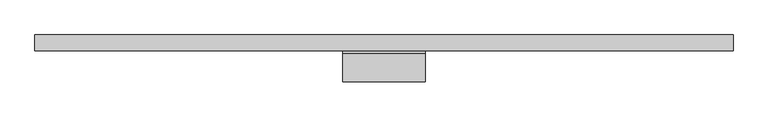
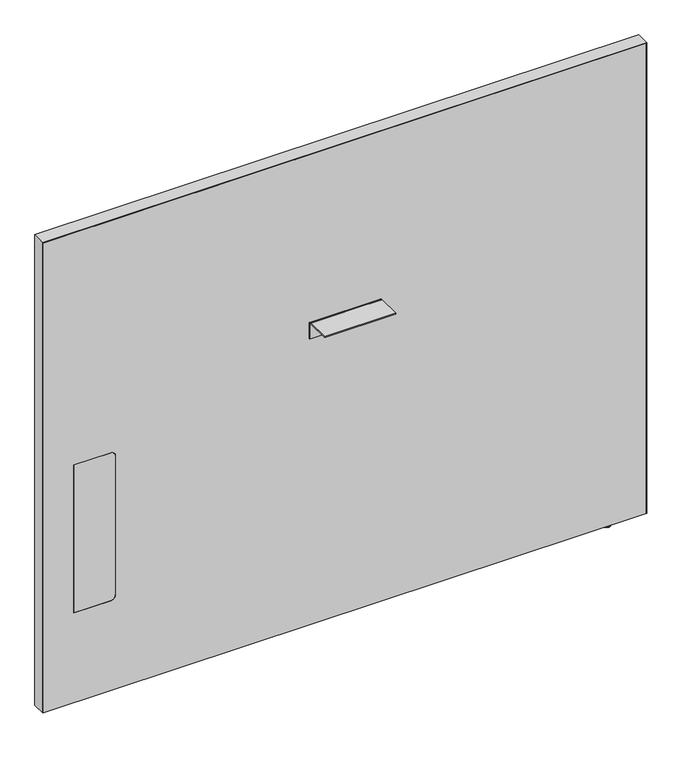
"""IFC4 building model written with IfcOpenShell, lengths in millimetres: furniture geometry, Steelcase - Answer Solution - Boundary Screen - Straight - Single Sided : 42H x 51W."""

from ifc_helpers import new_model, si_unit, point, frame, frame_2d, origin, place, context, project, spatial, polyline, circle_curve, ellipse_curve, trimmed, segment, composite_curve, outline, extrude, source, transform, mapped, element, save
from ifc_brep_helpers import plane_surface, cylinder_surface, revolved_surface, advanced_brep


def furniture_d0f10aa8(model_context):
    return source(origin(), model_context, "Body", "SolidModel", [
        extrude(outline(composite_curve([segment(polyline([(-86.8398151, 696.4680019), (-86.8398151, 698.5), (-34.9450855, 698.5)]), True, "CONTINUOUS"), segment(trimmed(circle_curve(frame_2d((-34.9450855, 693.2447477)), 5.2552523), [point((-34.9450855, 698.5))], [point((-29.6898332, 693.2447477))], False, "CARTESIAN"), True, "CONTINUOUS"), segment(polyline([(-29.6898332, 693.2447477), (-29.6898332, 660.4), (-31.7218162, 660.4), (-31.7218162, 693.0058743)]), True, "CONTINUOUS"), segment(trimmed(circle_curve(frame_2d((-35.1839438, 693.0058743)), 3.4621276), [point((-31.7218162, 693.0058743))], [point((-35.1839438, 696.4680019))], True, "CARTESIAN"), True, "CONTINUOUS"), segment(polyline([(-35.1839438, 696.4680019), (-86.8398151, 696.4680019)]), True, "CONTINUOUS")], self_intersect=False)), frame((-74.9808593, 0.0, 0.0), z_axis=(1.0, 0.0, 0.0), x_axis=(0.0, 1.0, 0.0)), (0.0, 0.0, 1.0), 152.4000969),
        advanced_brep(
        [(571.7286488, -23.7588726, 9.9059849), (571.7286488, -5.9309607, 9.9059849), (571.7286488, -14.8449166, 9.9059849), (571.7286488, -23.7588726, 2.9673238), (571.7286488, -5.9309607, 2.9673238), (571.7286488, -22.7915354, 2.9673238), (571.7286488, -6.8982978, 2.9673238), (571.7286488, -22.7915354, 1.6569081), (571.7286488, -6.8982978, 1.6569081), (571.7286488, -21.1346274, 0.0), (571.7286488, -8.5552059, 0.0), (571.7286488, -14.8449166, 0.0)],
        [
            (0, 1, circle_curve(frame((571.7286488, -14.8449166, 9.9059849), z_axis=(0.0, 0.0, 1.0), x_axis=(0.0, 1.0, 0.0)), 8.913956)),
            (1, 2),
            (2, 0),
            (1, 0, circle_curve(frame((571.7286488, -14.8449166, 9.9059849), z_axis=(0.0, 0.0, 1.0), x_axis=(0.0, 1.0, 0.0)), 8.913956)),
            (3, 4, circle_curve(frame((571.7286488, -14.8449166, 2.9673238), z_axis=(0.0, 0.0, 1.0), x_axis=(0.0, 1.0, 0.0)), 8.913956)),
            (4, 1),
            (0, 3),
            (4, 3, circle_curve(frame((571.7286488, -14.8449166, 2.9673238), z_axis=(0.0, 0.0, 1.0), x_axis=(0.0, 1.0, 0.0)), 8.913956)),
            (5, 6, circle_curve(frame((571.7286488, -14.8449166, 2.9673238), z_axis=(0.0, 0.0, 1.0), x_axis=(0.0, 1.0, 0.0)), 7.9466188)),
            (6, 4),
            (3, 5),
            (6, 5, circle_curve(frame((571.7286488, -14.8449166, 2.9673238), z_axis=(0.0, 0.0, 1.0), x_axis=(0.0, 1.0, 0.0)), 7.9466188)),
            (7, 8, circle_curve(frame((571.7286488, -14.8449166, 1.6569081), z_axis=(0.0, 0.0, 1.0), x_axis=(0.0, 1.0, 0.0)), 7.9466188)),
            (8, 6),
            (5, 7),
            (8, 7, circle_curve(frame((571.7286488, -14.8449166, 1.6569081), z_axis=(0.0, 0.0, 1.0), x_axis=(0.0, 1.0, 0.0)), 7.9466188)),
            (9, 10, circle_curve(frame((571.7286488, -14.8449166, 0.0), z_axis=(0.0, 0.0, 1.0), x_axis=(0.0, 1.0, 0.0)), 6.2897107)),
            (10, 8, circle_curve(frame((571.7286488, -8.5552059, 1.6569081), z_axis=(1.0, 0.0, 0.0), x_axis=(0.0, 1.0, 0.0)), 1.6569081)),
            (7, 9, circle_curve(frame((571.7286488, -21.1346274, 1.6569081), z_axis=(1.0, 0.0, 0.0), x_axis=(0.0, -1.0, 0.0)), 1.6569081)),
            (10, 9, circle_curve(frame((571.7286488, -14.8449166, 0.0), z_axis=(0.0, 0.0, 1.0), x_axis=(0.0, 1.0, 0.0)), 6.2897107)),
            (11, 10),
            (9, 11),
        ],
        [
            plane_surface(frame((571.7286488, -14.8449166, 9.9059849), z_axis=(0.0, 0.0, 1.0), x_axis=(0.0, 1.0, 0.0))),
            cylinder_surface(frame((571.7286488, -14.8449166, 9.9059849), z_axis=(0.0, 0.0, -1.0), x_axis=(0.0, 1.0, 0.0)), 8.913956),
            plane_surface(frame((571.7286488, -14.8449166, 2.9673238), z_axis=(0.0, 0.0, -1.0), x_axis=(0.0, 1.0, 0.0))),
            cylinder_surface(frame((571.7286488, -14.8449166, 9.9059849), z_axis=(0.0, 0.0, -1.0), x_axis=(0.0, 1.0, 0.0)), 7.9466188),
            revolved_surface(trimmed(ellipse_curve(frame((571.7286488, -8.5552059, 1.6569081), z_axis=(-1.0, 0.0, 0.0), x_axis=(0.0, 1.0, 0.0)), 1.6569081, 1.6569081), [point((571.7286488, -6.8982978, 1.6569081))], [point((571.7286488, -8.5552059, 0.0))], True, "CARTESIAN"), (571.7286488, -14.8449166, 9.9059849), (0.0, 0.0, -1.0)),
            plane_surface(frame((571.7286488, -14.8449166, 0.0), z_axis=(0.0, 0.0, -1.0), x_axis=(0.0, 1.0, 0.0))),
        ],
        [
            (0, [[1, 2, 3]]),
            (0, [[4, -3, -2]]),
            (1, [[5, 6, -1, 7]]),
            (1, [[8, -7, -4, -6]]),
            (2, [[9, 10, -5, 11]]),
            (2, [[12, -11, -8, -10]]),
            (3, [[13, 14, -9, 15]]),
            (3, [[16, -15, -12, -14]]),
            (4, [[17, 18, -13, 19]]),
            (4, [[20, -19, -16, -18]]),
            (5, [[21, -17, 22]]),
            (5, [[-22, -20, -21]]),
        ],
    ),
        advanced_brep(
        [(647.8780168, 0.0, 1076.742118), (647.8780168, 0.0, 9.9059849), (-645.4902221, 0.0, 9.9059849), (-645.4902221, 0.0, 1076.742118), (647.8780168, -29.6898332, 1076.742118), (-645.4902221, -29.6898332, 1076.742118), (-645.4902221, -29.6898332, 9.9059849), (647.8780168, -29.6898332, 9.9059849), (-501.1463873, -29.6898332, 549.6162029), (-490.9863873, -29.6898332, 539.4562029), (-490.9863873, -29.6898332, 223.9362137), (-501.1463873, -29.6898332, 213.7762137), (-580.800285, -29.6898332, 213.7762137), (-580.800285, -29.6898332, 549.6162029), (-580.800285, -29.0550397, 549.6162029), (-501.1463873, -29.0550397, 549.6162029), (-580.800285, -29.0550397, 213.7762137), (-501.1463873, -29.0550397, 213.7762137), (-490.9863873, -29.0550397, 223.9362137), (-490.9863873, -29.0550397, 539.4562029)],
        [
            (0, 1),
            (1, 2),
            (2, 3),
            (3, 0),
            (4, 5),
            (5, 6),
            (6, 7),
            (7, 4),
            (8, 9, circle_curve(frame((-501.1463873, -29.6898332, 539.4562029), z_axis=(0.0, 1.0, 0.0), x_axis=(0.0, 0.0, 1.0)), 10.16)),
            (9, 10),
            (10, 11, circle_curve(frame((-501.1463873, -29.6898332, 223.9362137), z_axis=(0.0, 1.0, 0.0), x_axis=(0.0, 0.0, 1.0)), 10.16)),
            (11, 12),
            (12, 13),
            (13, 8),
            (0, 4),
            (7, 1),
            (6, 2),
            (5, 3),
            (13, 14),
            (14, 15),
            (15, 8),
            (12, 16),
            (16, 14),
            (11, 17),
            (17, 16),
            (10, 18),
            (18, 17, circle_curve(frame((-501.1463873, -29.0550397, 223.9362137), z_axis=(0.0, 1.0, 0.0), x_axis=(0.0, 0.0, 1.0)), 10.16)),
            (9, 19),
            (19, 18),
            (15, 19, circle_curve(frame((-501.1463873, -29.0550397, 539.4562029), z_axis=(0.0, 1.0, 0.0), x_axis=(0.0, 0.0, 1.0)), 10.16)),
        ],
        [
            plane_surface(frame((647.8780168, 0.0, 1076.742118), z_axis=(0.0, 1.0, 0.0), x_axis=(0.0, 0.0, -1.0))),
            plane_surface(frame((647.8780168, -29.6898332, 1076.742118), z_axis=(0.0, -1.0, 0.0), x_axis=(0.0, 0.0, 1.0))),
            plane_surface(frame((647.8780168, 0.0, 1076.742118), z_axis=(1.0, 0.0, 0.0), x_axis=(0.0, -1.0, 0.0))),
            plane_surface(frame((647.8780168, 0.0, 9.9059849), z_axis=(0.0, 0.0, -1.0), x_axis=(0.0, -1.0, 0.0))),
            plane_surface(frame((-645.4902221, 0.0, 9.9059849), z_axis=(-1.0, 0.0, 0.0), x_axis=(0.0, -1.0, 0.0))),
            plane_surface(frame((-645.4902221, 0.0, 1076.742118), z_axis=(0.0, 0.0, 1.0), x_axis=(0.0, -1.0, 0.0))),
            plane_surface(frame((-501.1463873, 0.0, 549.6162029), z_axis=(0.0, 0.0, -1.0), x_axis=(0.0, -1.0, 0.0))),
            plane_surface(frame((-580.800285, 0.0, 549.6162029), z_axis=(1.0, 0.0, 0.0), x_axis=(0.0, -1.0, 0.0))),
            plane_surface(frame((-580.800285, 0.0, 213.7762137), z_axis=(0.0, 0.0, 1.0), x_axis=(0.0, -1.0, 0.0))),
            revolved_surface(polyline([(-501.1463873, -29.6898332, 234.0962137), (-501.1463873, -29.0550397, 234.0962137)]), (-501.1463873, -29.6898332, 223.9362137), (0.0, -1.0, 0.0)),
            plane_surface(frame((-490.9863873, 0.0, 223.9362137), z_axis=(-1.0, 0.0, 0.0), x_axis=(0.0, -1.0, 0.0))),
            revolved_surface(polyline([(-501.1463873, -29.6898332, 549.6162029), (-501.1463873, -29.0550397, 549.6162029)]), (-501.1463873, -29.6898332, 539.4562029), (0.0, -1.0, 0.0)),
            plane_surface(frame((-490.9863873, -29.0550397, 629.172953), z_axis=(0.0, -1.0, 0.0), x_axis=(0.0, 0.0, 1.0))),
        ],
        [
            (0, [[1, 2, 3, 4]]),
            (1, [[5, 6, 7, 8], [9, 10, 11, 12, 13, 14]]),
            (2, [[-1, 15, -8, 16]]),
            (3, [[-2, -16, -7, 17]]),
            (4, [[-3, -17, -6, 18]]),
            (5, [[-4, -18, -5, -15]]),
            (6, [[-14, 19, 20, 21]]),
            (7, [[-13, 22, 23, -19]]),
            (8, [[-12, 24, 25, -22]]),
            (9, [[-11, 26, 27, -24]]),
            (10, [[-10, 28, 29, -26]]),
            (11, [[-9, -21, 30, -28]]),
            (12, [[-20, -23, -25, -27, -29, -30]]),
        ],
    ),
        extrude(outline(composite_curve([segment(polyline([(549.6162029, -501.1463873), (549.6162029, -580.800285), (213.7762137, -580.800285), (213.7762137, -501.1463873)]), True, "CONTINUOUS"), segment(trimmed(circle_curve(frame_2d((223.9362137, -501.1463873)), 10.16), [point((213.7762137, -501.1463873))], [point((223.9362137, -490.9863873))], False, "CARTESIAN"), True, "CONTINUOUS"), segment(polyline([(223.9362137, -490.9863873), (539.4562029, -490.9863873)]), True, "CONTINUOUS"), segment(trimmed(circle_curve(frame_2d((539.4562029, -501.1463873)), 10.16), [point((539.4562029, -490.9863873))], [point((549.6162029, -501.1463873))], False, "CARTESIAN"), True, "CONTINUOUS")], self_intersect=False)), frame((0.0, -29.6898332, 0.0), z_axis=(0.0, 1.0, 0.0), x_axis=(0.0, 0.0, 1.0)), (0.0, 0.0, 1.0), 0.6347935),
        extrude(outline(polyline([(1077.722, 648.9191891), (1077.722, -646.4808109), (9.9059849, -646.4808109), (9.9059849, -645.4902221), (1076.742118, -645.4902221), (1076.742118, 647.8780168), (9.9059849, 647.8780168), (9.9059849, 648.9191891), (1077.722, 648.9191891)])), frame((0.0, -29.6898332, 0.0), z_axis=(0.0, 1.0, 0.0), x_axis=(0.0, 0.0, 1.0)), (0.0, 0.0, 1.0), 29.6898332),
    ])


if __name__ == "__main__":
    model = new_model("IFC4")
    model_context = context("Model", 3, world=origin())
    ifc_project = project(units=[si_unit("LENGTHUNIT", "METRE", prefix="MILLI")], contexts=[model_context])
    site = spatial("IfcSite", under=ifc_project)
    building = spatial("IfcBuilding", under=site)
    placement = place(None, origin())
    furniture_shape = furniture_d0f10aa8(model_context)
    element("IfcFurniture", 1, ObjectType="Steelcase - Answer Solution - Boundary Screen - Straight - Single Sided : 42H x 51W", at=placement, inside=building, context=model_context, shape_type="MappedRepresentation", body=[
        mapped(furniture_shape, transform((0.0, 0.0, 0.0), x_axis=(1.0, 0.0, 0.0), y_axis=(0.0, 1.0, 0.0), z_axis=(0.0, 0.0, 1.0))),
    ])
    save(model, "model.ifc")
